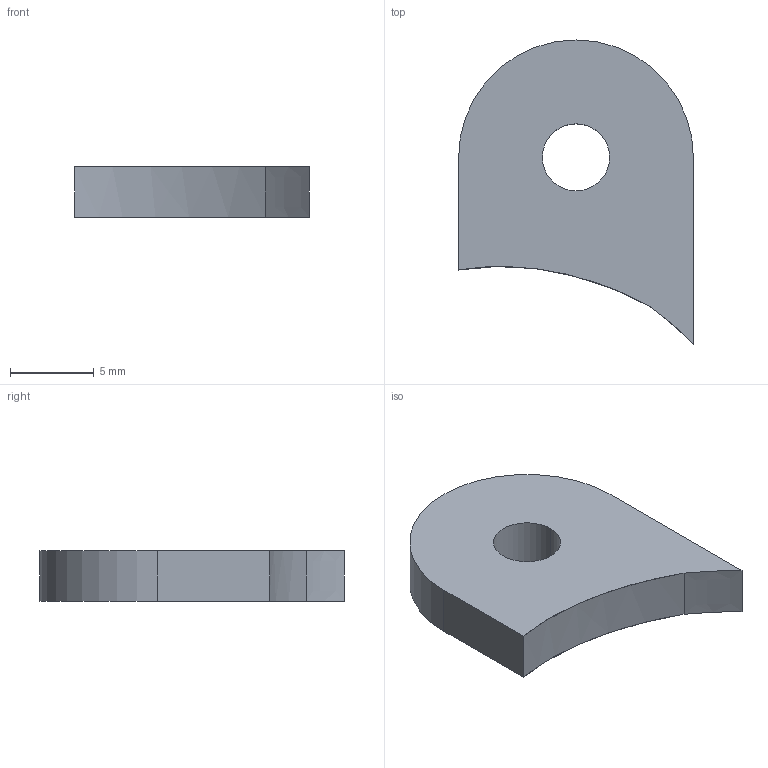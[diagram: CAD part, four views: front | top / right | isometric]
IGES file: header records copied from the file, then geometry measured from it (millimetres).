
Start section: START RECORD GO HERE.
Global section: file name: 20M_EN_09031 (Frame Bracket Top).igs; native system: IBM CATIA IGES - CATIA Version 5 Release 19 ; preprocessor: CATIA Version 5 Release 19 ; author: Mathieu Jacquet; organization: MBPRO; date: 20200116.124629; units: millimetre
Bounding box: 14 x 18.12 x 3 mm (x, y, z)
Surface area: 546.1 mm2 (no closed solid volume)
Topology: 0 solids, 0 shells, 9 faces, 42 edges, 43 vertices
Faces by surface type: plane 4, revolution 3, extrusion 2
